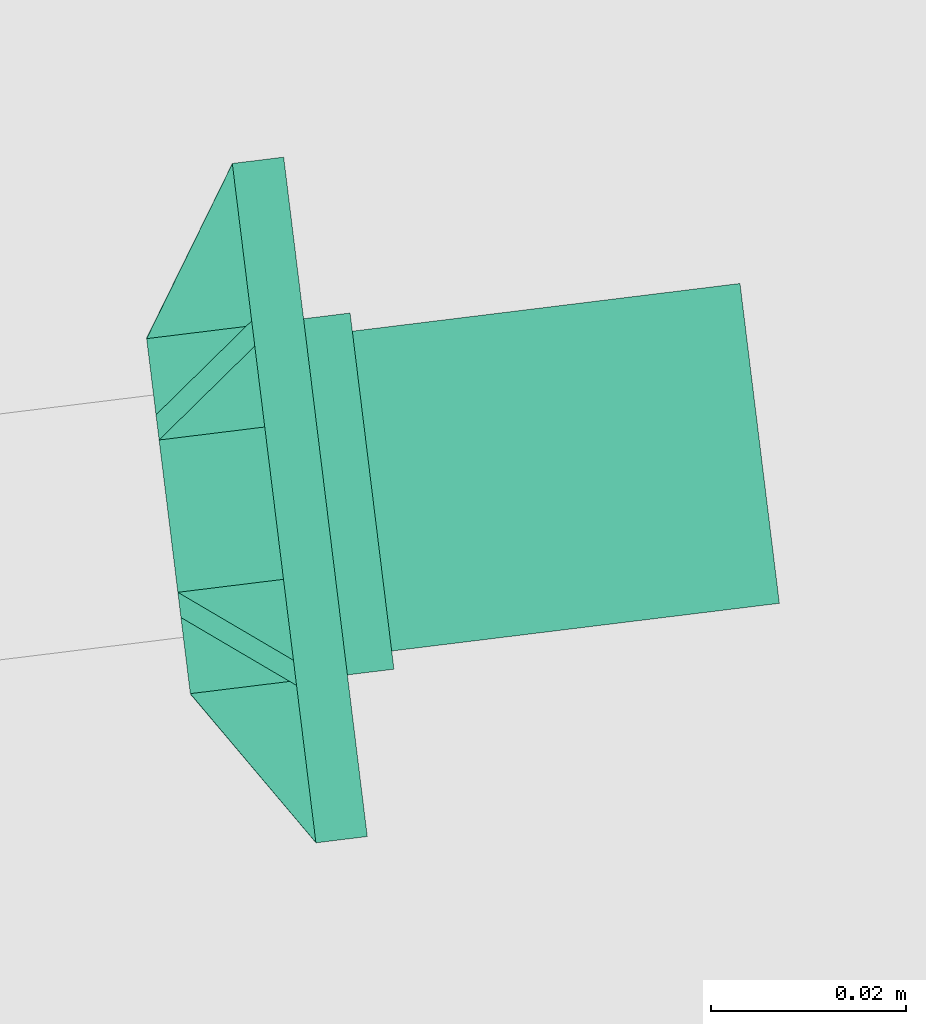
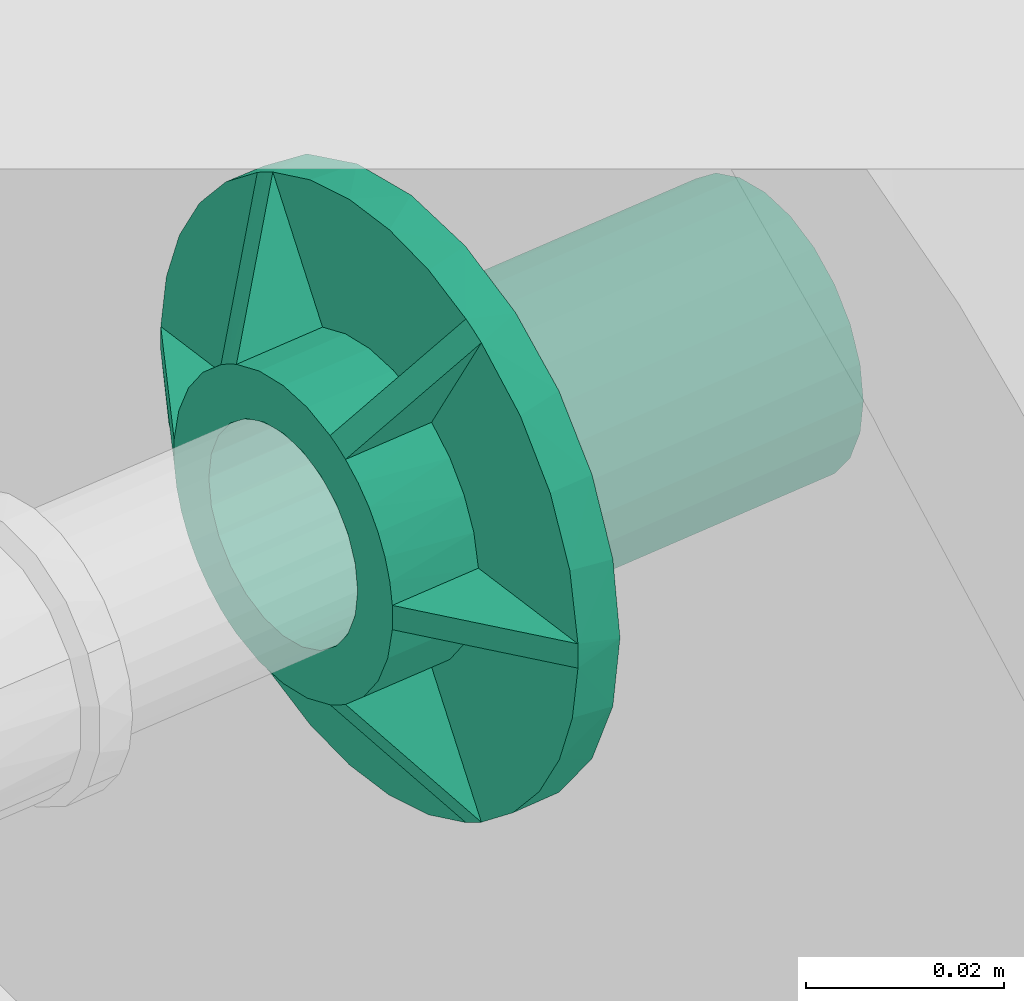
# One storey, part 94 of 97: 1 flow controller.
"""IFC2X3 building model written with IfcOpenShell, lengths in centimetres."""

from ifc_helpers import new_model, entity, si_unit, converted_unit, derived_unit, direction, frame, origin, place, context, subcontext, project, spatial, faceted_brep, source, transform, mapped, material, type_object, type_shapes, element, save


model = new_model("IFC2X3")

# Units and contexts
model_context = context("Model", 3, precision=0.001, world=origin(), true_north=direction((6.12303176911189e-17, 1.0)))
body_context = subcontext(model_context, "Body", "Model", "MODEL_VIEW")
ifc_project = project(units=[si_unit("LENGTHUNIT", "METRE", prefix="CENTI"), si_unit("AREAUNIT", "SQUARE_METRE"), si_unit("VOLUMEUNIT", "CUBIC_METRE"), converted_unit("PLANEANGLEUNIT", "DEGREE", entity("IfcRatioMeasure", 0.0174532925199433), si_unit("PLANEANGLEUNIT", "RADIAN"), dimensions=[0, 0, 0, 0, 0, 0, 0]), si_unit("MASSUNIT", "GRAM", prefix="KILO"), derived_unit("MASSDENSITYUNIT", [(si_unit("MASSUNIT", "GRAM", prefix="KILO"), 1), (si_unit("LENGTHUNIT", "METRE"), -3)]), derived_unit("MOMENTOFINERTIAUNIT", [(si_unit("LENGTHUNIT", "METRE"), 4)]), si_unit("TIMEUNIT", "SECOND"), si_unit("FREQUENCYUNIT", "HERTZ"), si_unit("THERMODYNAMICTEMPERATUREUNIT", "DEGREE_CELSIUS"), derived_unit("THERMALTRANSMITTANCEUNIT", [(si_unit("MASSUNIT", "GRAM", prefix="KILO"), 1), (si_unit("THERMODYNAMICTEMPERATUREUNIT", "KELVIN"), -1), (si_unit("TIMEUNIT", "SECOND"), -3)]), derived_unit("VOLUMETRICFLOWRATEUNIT", [(si_unit("LENGTHUNIT", "METRE"), 3), (si_unit("TIMEUNIT", "SECOND"), -1)]), si_unit("ELECTRICCURRENTUNIT", "AMPERE"), si_unit("ELECTRICVOLTAGEUNIT", "VOLT"), si_unit("POWERUNIT", "WATT"), si_unit("FORCEUNIT", "NEWTON", prefix="KILO"), si_unit("ILLUMINANCEUNIT", "LUX"), si_unit("LUMINOUSFLUXUNIT", "LUMEN"), si_unit("LUMINOUSINTENSITYUNIT", "CANDELA"), derived_unit("USERDEFINED", [(si_unit("MASSUNIT", "GRAM", prefix="KILO"), -1), (si_unit("LENGTHUNIT", "METRE"), -2), (si_unit("TIMEUNIT", "SECOND"), 3), (si_unit("LUMINOUSFLUXUNIT", "LUMEN"), 1)]), derived_unit("LINEARVELOCITYUNIT", [(si_unit("LENGTHUNIT", "METRE"), 1), (si_unit("TIMEUNIT", "SECOND"), -1)]), si_unit("PRESSUREUNIT", "PASCAL"), derived_unit("USERDEFINED", [(si_unit("LENGTHUNIT", "METRE"), -2), (si_unit("MASSUNIT", "GRAM", prefix="KILO"), 1), (si_unit("TIMEUNIT", "SECOND"), -2)]), derived_unit("LINEARFORCEUNIT", [(si_unit("MASSUNIT", "GRAM", prefix="KILO"), 1), (si_unit("LENGTHUNIT", "METRE"), 1), (si_unit("TIMEUNIT", "SECOND"), -2), (si_unit("LENGTHUNIT", "METRE"), -1)]), derived_unit("PLANARFORCEUNIT", [(si_unit("MASSUNIT", "GRAM", prefix="KILO"), 1), (si_unit("LENGTHUNIT", "METRE"), 1), (si_unit("TIMEUNIT", "SECOND"), -2), (si_unit("LENGTHUNIT", "METRE"), -2)])], contexts=[model_context])

# Site, building, storey
site_placement = place(None, origin())
site = spatial("IfcSite", under=ifc_project, at=site_placement, Name="Default", CompositionType="ELEMENT")
building_placement = place(site_placement, origin())
building = spatial("IfcBuilding", under=site, at=building_placement, Name="HIDROSSANITÁRIO", CompositionType="ELEMENT")
storey_placement = place(building_placement, frame((0.0, 0.0, -260.0)))
storey = spatial("IfcBuildingStorey", under=building, at=storey_placement, Name="TÉRREO-HID", CompositionType="ELEMENT", Elevation=-260.0)

# Flow controller
ifc_material = material(Name="PVC Marrom")
valve_type = type_object("IfcValveType", Name="Adaptador com Anel - Agua Fria_Soldavel - MEP - Tigre:Standard", PredefinedType="NOTDEFINED", material=ifc_material)
shared_shape = source(origin(), body_context, "Body", "Brep", [
    faceted_brep([(1.09000000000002, 0.996279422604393, 3.36042442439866), (1.09000000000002, 1.62099060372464, 3.10763808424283), (1.09000000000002, 0.785779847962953, 1.66101062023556), (1.09000000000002, 0.402678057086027, 1.79283480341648), (1.09000000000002, 0.0, 1.8375), (1.09000000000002, -0.402678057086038, 1.79283480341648), (1.09000000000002, -0.785779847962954, 1.66101062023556), (1.09000000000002, -1.62099060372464, 3.10763808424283), (1.09000000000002, -0.996309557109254, 3.36041549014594), (1.09000000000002, -0.33622900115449, 3.48883577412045), (1.09000000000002, 0.336209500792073, 3.4888376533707), (1.09000000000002, 1.83136731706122, 0.150000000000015), (1.09000000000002, 1.75397951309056, 0.547687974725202), (1.09000000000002, 1.5913216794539, 0.918750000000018), (1.09000000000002, 1.35130145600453, 1.24514682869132), (1.09000000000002, 1.04558746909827, 1.51101062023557), (1.09000000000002, 1.88079822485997, 2.95763808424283), (1.09000000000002, 2.41200058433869, 2.54308438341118), (1.09000000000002, 2.85349996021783, 2.03532871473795), (1.09000000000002, 3.18984592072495, 1.4525522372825), (1.09000000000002, 3.40862126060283, 0.8162880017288), (1.09000000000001, 3.50178882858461, 0.15000000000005), (1.09000000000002, -3.03582194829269, 1.75180195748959), (1.09000000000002, -2.53113860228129, 2.42453343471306), (1.09000000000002, -1.88079822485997, 2.95763808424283), (1.09000000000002, -1.04558746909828, 1.51101062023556), (1.09000000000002, -1.35130145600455, 1.24514682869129), (1.09000000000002, -1.59132167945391, 0.918749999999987), (1.09000000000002, -1.75397951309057, 0.547687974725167), (1.09000000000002, -1.83136731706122, 0.150000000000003), (1.09000000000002, -3.50178882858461, 0.150000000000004), (1.09000000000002, -3.36572579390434, 0.978220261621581), (1.09000000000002, 1.35130145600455, -1.2451468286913), (1.09000000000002, 1.59132167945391, -0.918749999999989), (1.09000000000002, 1.75397951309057, -0.547687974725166), (1.09000000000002, 1.83136731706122, -0.149999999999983), (1.09000000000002, 3.50178882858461, -0.149999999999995), (1.09000000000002, 3.36572579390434, -0.978220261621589), (1.09000000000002, 3.03582194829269, -1.7518019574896), (1.09000000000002, 2.53113860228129, -2.42453343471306), (1.09000000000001, 1.88079822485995, -2.95763808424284), (1.09000000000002, 1.04558746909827, -1.51101062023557), (1.09000000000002, -2.41200058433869, -2.54308438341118), (1.09000000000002, -2.85349996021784, -2.03532871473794), (1.09000000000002, -3.18984592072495, -1.45255223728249), (1.09000000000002, -3.40862126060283, -0.816288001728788), (1.09000000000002, -3.50178882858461, -0.149999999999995), (1.09000000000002, -1.83136731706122, -0.149999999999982), (1.09000000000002, -1.75397951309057, -0.547687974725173), (1.09000000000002, -1.59132167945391, -0.918749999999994), (1.09000000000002, -1.35130145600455, -1.2451468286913), (1.09000000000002, -1.04558746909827, -1.51101062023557), (1.09000000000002, -1.88079822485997, -2.95763808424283), (1.09000000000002, 0.336229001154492, -3.48883577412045), (1.09000000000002, -0.336209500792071, -3.4888376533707), (1.09000000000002, -0.996279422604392, -3.36042442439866), (1.09000000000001, -1.62099060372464, -3.10763808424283), (1.09000000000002, -0.785779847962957, -1.66101062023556), (1.09000000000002, -0.40267805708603, -1.79283480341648), (1.09000000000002, 0.0, -1.8375), (1.09000000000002, 0.40267805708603, -1.79283480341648), (1.09000000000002, 0.785779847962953, -1.66101062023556), (1.09000000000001, 1.62099060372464, -3.10763808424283), (1.09000000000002, 0.996309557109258, -3.36041549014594), (0.544790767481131, 2.66671457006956, 0.150000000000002), (0.545000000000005, 2.67125, 0.0), (0.0, 1.83596618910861, 0.0750626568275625), (0.0, 1.83136731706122, 0.150000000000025), (1.09000000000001, 3.50419711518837, 0.0750171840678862), (0.0, 1.83750000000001, 0.0), (1.09000000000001, 3.505, 0.0), (0.544790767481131, 1.20345347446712, -2.38444256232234), (0.544790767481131, 1.46326109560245, -2.23444256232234), (1.09000000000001, 1.75249999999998, -3.03541904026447), (0.0, 0.918750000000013, -1.59132167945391), (0.0, 1.04558746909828, -1.51101062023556), (0.0, 0.785779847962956, -1.66101062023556), (0.544790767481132, -2.66671457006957, -0.149999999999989), (0.545000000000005, -2.67125, 0.0), (0.0, -1.83596618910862, -0.0750626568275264), (0.0, -1.83136731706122, -0.149999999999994), (1.09000000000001, -3.50419711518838, -0.0750171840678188), (0.0, -1.83750000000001, 0.0), (1.09000000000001, -3.505, 0.0), (0.544790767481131, -1.46326109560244, -2.23444256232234), (0.544790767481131, -1.20345347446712, -2.38444256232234), (1.09000000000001, -1.75249999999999, -3.03541904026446), (0.0, -0.918750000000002, -1.59132167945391), (0.0, -0.785779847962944, -1.66101062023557), (0.0, -1.04558746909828, -1.51101062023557), (0.544790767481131, -1.20345347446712, 2.38444256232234), (0.544790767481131, -1.46326109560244, 2.23444256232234), (1.09000000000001, -1.75250000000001, 3.03541904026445), (0.0, -0.918750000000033, 1.59132167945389), (0.0, -1.04558746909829, 1.51101062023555), (0.0, -0.785779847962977, 1.66101062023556), (0.0, -1.35125325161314, -1.24519914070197), (0.0, -1.59129393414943, -0.918798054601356), (0.0, -1.75396970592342, -0.547719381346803), (0.0, 0.402586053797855, -1.79285546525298), (0.0, 6.33611868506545e-05, -1.83749999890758), (0.0, -0.402458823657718, -1.79288403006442), (0.544790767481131, 1.46326109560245, 2.23444256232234), (0.544790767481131, 1.20345347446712, 2.38444256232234), (1.09000000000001, 1.75249999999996, 3.03541904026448), (0.0, 0.918749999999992, 1.59132167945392), (0.0, 0.785779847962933, 1.66101062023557), (0.0, 1.04558746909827, 1.51101062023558), (0.0, -0.402586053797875, 1.79285546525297), (0.0, -6.33611868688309e-05, 1.83749999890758), (0.0, 0.402458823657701, 1.79288403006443), (2.1, -1.77488870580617, 0.475579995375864), (1.62, -1.77488870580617, 0.475579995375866), (1.62, -1.83750000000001, 0.0), (2.1, -1.83750000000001, 0.0), (2.1, -1.59132167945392, 0.918749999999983), (1.62, -1.59132167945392, 0.918749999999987), (1.62, -1.2993087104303, 1.29930871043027), (2.1, -1.2993087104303, 1.29930871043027), (2.1, -0.918750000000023, 1.5913216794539), (1.62, -0.918750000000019, 1.5913216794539), (2.1, -0.475579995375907, 1.77488870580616), (1.62, -0.475579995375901, 1.77488870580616), (2.1, 0.0, 1.8375), (1.62, 0.0, 1.8375), (2.1, 0.918749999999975, 1.59132167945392), (1.62, 0.918749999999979, 1.59132167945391), (1.62, 0.475579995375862, 1.77488870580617), (2.1, 0.475579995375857, 1.77488870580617), (2.1, 1.29930871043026, 1.2993087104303), (1.62, 1.29930871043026, 1.29930871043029), (1.62, 1.59132167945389, 0.918750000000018), (2.1, 1.59132167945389, 0.918750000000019), (2.1, 1.77488870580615, 0.475579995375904), (1.62, 1.77488870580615, 0.475579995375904), (2.1, 1.83749999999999, 0.0), (1.62, 1.83749999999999, 0.0), (0.0, 1.35125325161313, 1.24519914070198), (0.0, 1.59129393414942, 0.918798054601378), (0.0, 1.75396970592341, 0.54771938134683), (2.1, 1.77488870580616, -0.475579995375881), (1.62, 1.77488870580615, -0.475579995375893), (2.1, 1.5913216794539, -0.918749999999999), (1.62, 1.5913216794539, -0.918750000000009), (1.62, 1.29930871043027, -1.29930871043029), (2.1, 1.29930871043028, -1.29930871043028), (2.1, 0.918749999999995, -1.5913216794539), (1.62, 0.918749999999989, -1.59132167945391), (2.1, 0.475579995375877, -1.77488870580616), (1.62, 0.475579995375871, -1.77488870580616), (2.1, 0.0, -1.8375), (1.62, 0.0, -1.8375), (2.1, -0.918750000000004, -1.59132167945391), (1.62, -0.918750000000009, -1.5913216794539), (1.62, -0.475579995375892, -1.77488870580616), (2.1, -0.475579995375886, -1.77488870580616), (2.1, -1.29930871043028, -1.29930871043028), (1.62, -1.29930871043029, -1.29930871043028), (1.62, -1.59132167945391, -0.918749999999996), (2.1, -1.59132167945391, -0.918750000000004), (2.1, -1.77488870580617, -0.475579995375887), (1.62, -1.77488870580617, -0.475579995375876), (1.62, 1.7525, -3.03541904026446), (1.62, 2.47840926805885, -2.47840926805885), (1.62, 0.90716075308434, -3.38557002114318), (1.62, 0.0, -3.505), (1.62, -0.90716075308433, -3.38557002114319), (1.62, -1.75249999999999, -3.03541904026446), (1.62, -2.47840926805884, -2.47840926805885), (1.62, -3.03541904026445, -1.75250000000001), (1.62, -3.38557002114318, -0.907160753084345), (1.62, -3.505, 0.0), (1.62, -3.38557002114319, 0.907160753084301), (1.62, -3.03541904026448, 1.75249999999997), (1.62, -2.47840926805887, 2.47840926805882), (1.62, -1.75250000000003, 3.03541904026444), (1.62, -0.907160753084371, 3.38557002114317), (1.62, 0.0, 3.505), (1.62, 0.907160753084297, 3.38557002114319), (1.62, 1.75249999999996, 3.03541904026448), (1.62, 2.47840926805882, 2.47840926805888), (1.62, 3.03541904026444, 1.75250000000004), (1.62, 3.38557002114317, 0.907160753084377), (1.62, 3.505, 0.0), (1.62, 3.38557002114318, -0.907160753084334), (1.62, 3.03541904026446, -1.7525), (1.09000000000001, -3.50419711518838, 0.0750171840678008), (1.09000000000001, 3.50419711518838, -0.0750171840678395), (0.544790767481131, 2.66671457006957, -0.149999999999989), (0.0, 1.83596618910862, -0.075062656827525), (0.0, 1.83136731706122, -0.149999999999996), (0.544790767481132, -2.66671457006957, 0.150000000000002), (0.0, -1.83596618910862, 0.0750626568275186), (0.0, -1.83136731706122, 0.149999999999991), (0.0, 0.625000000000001, 1.08253175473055), (0.0, 0.323523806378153, 1.20740728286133), (0.0, 0.883883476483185, 0.883883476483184), (0.0, 0.0, 1.25), (0.0, -0.323523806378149, 1.20740728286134), (0.0, -0.624999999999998, 1.08253175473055), (0.0, -0.883883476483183, 0.883883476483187), (0.0, -1.25590084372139, 1.34131253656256), (0.0, -1.43906388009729, 1.14258540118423), (0.0, -1.08253175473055, 0.625000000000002), (0.0, -1.5910921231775, 0.919147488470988), (0.0, -1.70870547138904, 0.675819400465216), (0.0, -1.20740728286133, 0.323523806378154), (0.0, -1.7893620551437, 0.4178393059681), (0.0, -1.25, 0.0), (0.0, -1.20740728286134, -0.323523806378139), (0.0, -1.08253175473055, -0.624999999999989), (0.0, -0.883883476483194, -0.883883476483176), (0.0, -0.625000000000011, -1.08253175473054), (0.0, -0.323523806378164, -1.20740728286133), (0.0, 0.0, -1.25), (0.0, 0.323523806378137, -1.20740728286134), (0.0, 0.624999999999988, -1.08253175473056), (0.0, 0.883883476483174, -0.883883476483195), (0.0, 1.25590084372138, -1.34131253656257), (0.0, 1.43906388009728, -1.14258540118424), (0.0, 1.08253175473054, -0.625000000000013), (0.0, 1.59109212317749, -0.919147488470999), (0.0, 1.70870547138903, -0.675819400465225), (0.0, 1.20740728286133, -0.323523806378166), (0.0, 1.7893620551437, -0.417839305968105), (0.0, 1.25, 0.0), (0.0, 1.20740728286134, 0.323523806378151), (0.0, 1.08253175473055, 0.625), (6.1, 0.825000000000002, -1.42894191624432), (6.1, 1.1667261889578, -1.1667261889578), (6.1, 0.624999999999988, -1.08253175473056), (6.1, 0.323523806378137, -1.20740728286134), (6.1, 0.427051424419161, -1.59377761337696), (6.1, 0.883883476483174, -0.883883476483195), (6.1, 1.42894191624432, -0.824999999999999), (6.1, 1.08253175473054, -0.625000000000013), (6.1, 1.20740728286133, -0.323523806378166), (6.1, 1.59377761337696, -0.427051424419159), (6.1, 1.25, 0.0), (6.1, 1.65, 0.0), (6.1, 1.20740728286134, 0.323523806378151), (6.1, 1.59377761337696, 0.427051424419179), (6.1, 1.08253175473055, 0.624999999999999), (6.1, 1.42894191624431, 0.825000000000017), (6.1, 0.883883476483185, 0.883883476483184), (6.1, 1.16672618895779, 1.16672618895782), (6.1, 0.625000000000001, 1.08253175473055), (6.1, 0.824999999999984, 1.42894191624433), (6.1, 0.323523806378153, 1.20740728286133), (6.1, 0.427051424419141, 1.59377761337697), (6.1, 0.0, 1.25), (6.1, 0.0, 1.65), (6.1, -0.323523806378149, 1.20740728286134), (6.1, -0.427051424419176, 1.59377761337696), (6.1, -0.624999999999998, 1.08253175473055), (6.1, -0.825000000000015, 1.42894191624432), (6.1, -0.883883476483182, 0.883883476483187), (6.1, -1.16672618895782, 1.16672618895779), (6.1, -1.08253175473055, 0.625000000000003), (6.1, -1.42894191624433, 0.824999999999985), (6.1, -1.59377761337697, 0.427051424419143), (6.1, -1.20740728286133, 0.323523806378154), (6.1, -1.65, 0.0), (6.1, -1.25, 0.0), (6.1, -1.59377761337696, -0.427051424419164), (6.1, -1.20740728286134, -0.323523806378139), (6.1, -1.42894191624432, -0.825000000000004), (6.1, -1.08253175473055, -0.624999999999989), (6.1, -1.1667261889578, -1.16672618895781), (6.1, -0.883883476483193, -0.883883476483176), (6.1, -0.824999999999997, -1.42894191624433), (6.1, -0.625000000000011, -1.08253175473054), (6.1, -0.427051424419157, -1.59377761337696), (6.1, -0.323523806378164, -1.20740728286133), (6.1, 0.0, -1.65), (6.1, 0.0, -1.25), (2.1, -1.59377761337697, 0.427051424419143), (2.1, -1.65, 0.0), (2.1, -1.42894191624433, 0.824999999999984), (2.1, -0.825000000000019, 1.42894191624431), (2.1, -1.16672618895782, 1.16672618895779), (2.1, -0.427051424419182, 1.59377761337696), (2.1, 0.0, 1.65), (2.1, 0.824999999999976, 1.42894191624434), (2.1, 0.427051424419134, 1.59377761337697), (2.10000000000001, 1.16672618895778, 1.16672618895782), (2.10000000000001, 1.59377761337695, 0.427051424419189), (2.10000000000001, 1.42894191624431, 0.825000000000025), (2.10000000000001, 1.65, 0.0), (2.10000000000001, 1.59377761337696, -0.427051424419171), (2.10000000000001, 1.42894191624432, -0.825000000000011), (2.1, 0.427051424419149, -1.59377761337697), (2.1, 0.82499999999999, -1.42894191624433), (2.10000000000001, 1.1667261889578, -1.16672618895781), (2.1, 0.0, -1.65), (2.1, -0.825000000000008, -1.42894191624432), (2.1, -0.427051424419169, -1.59377761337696), (2.1, -1.16672618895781, -1.1667261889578), (2.1, -1.59377761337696, -0.427051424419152), (2.1, -1.42894191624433, -0.824999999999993), (1.09000000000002, -1.25, 0.0), (1.62, -1.25, 0.0), (2.1, -1.25, 0.0), (1.62, -1.20740728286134, -0.323523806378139), (1.09000000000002, -1.20740728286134, -0.323523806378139), (1.62, -1.08253175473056, -0.624999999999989), (1.09000000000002, -1.08253175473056, -0.624999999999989), (1.09000000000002, -0.625000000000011, -1.08253175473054), (1.09000000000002, -0.883883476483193, -0.883883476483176), (1.62, -0.883883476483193, -0.883883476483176), (1.62, -0.625000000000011, -1.08253175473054), (1.09000000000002, -0.323523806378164, -1.20740728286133), (1.62, -0.323523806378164, -1.20740728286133), (1.62, 0.0, -1.25), (1.09000000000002, 0.0, -1.25), (1.62, 0.323523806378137, -1.20740728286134), (1.09000000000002, 0.323523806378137, -1.20740728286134), (1.62, 0.624999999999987, -1.08253175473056), (1.09000000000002, 0.624999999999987, -1.08253175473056), (1.09000000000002, 1.08253175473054, -0.625000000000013), (1.09000000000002, 0.883883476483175, -0.883883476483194), (1.62, 0.883883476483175, -0.883883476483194), (1.62, 1.08253175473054, -0.625000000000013), (1.09000000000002, 1.20740728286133, -0.323523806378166), (1.62, 1.20740728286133, -0.323523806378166), (2.10000000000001, 1.25, 0.0), (1.62, 1.25, 0.0), (1.09000000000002, 1.25, 0.0), (1.62, 1.20740728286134, 0.323523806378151), (1.09000000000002, 1.20740728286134, 0.323523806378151), (1.62, 1.08253175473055, 0.624999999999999), (1.09000000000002, 1.08253175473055, 0.624999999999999), (1.09000000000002, 0.625000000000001, 1.08253175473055), (1.09000000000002, 0.883883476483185, 0.883883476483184), (1.62, 0.883883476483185, 0.883883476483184), (1.62, 0.625000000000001, 1.08253175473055), (1.09000000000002, 0.323523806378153, 1.20740728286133), (1.62, 0.323523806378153, 1.20740728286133), (1.62, 0.0, 1.25), (1.09000000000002, 0.0, 1.25), (1.62, -0.323523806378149, 1.20740728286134), (1.09000000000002, -0.323523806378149, 1.20740728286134), (1.62, -0.624999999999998, 1.08253175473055), (1.09000000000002, -0.624999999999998, 1.08253175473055), (1.09000000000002, -1.08253175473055, 0.625000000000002), (1.09000000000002, -0.883883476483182, 0.883883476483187), (1.62, -0.883883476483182, 0.883883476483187), (1.62, -1.08253175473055, 0.625000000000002), (1.09000000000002, -1.20740728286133, 0.323523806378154), (1.62, -1.20740728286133, 0.323523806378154)], [[[0, 1, 2, 3, 4, 5, 6, 7, 8, 9, 10]], [[11, 12, 13, 14, 15, 16, 17, 18, 19, 20, 21]], [[22, 23, 24, 25, 26, 27, 28, 29, 30, 31]], [[32, 33, 34, 35, 36, 37, 38, 39, 40, 41]], [[42, 43, 44, 45, 46, 47, 48, 49, 50, 51, 52]], [[53, 54, 55, 56, 57, 58, 59, 60, 61, 62, 63]], [[64, 65, 66]], [[66, 67, 64]], [[68, 64, 21]], [[66, 65, 69]], [[64, 68, 65]], [[65, 68, 70]], [[71, 72, 73]], [[72, 40, 73]], [[74, 75, 72]], [[71, 76, 74]], [[71, 73, 62]], [[74, 72, 71]], [[77, 78, 79]], [[79, 80, 77]], [[81, 77, 46]], [[79, 78, 82]], [[77, 81, 78]], [[78, 81, 83]], [[84, 85, 86]], [[85, 56, 86]], [[87, 88, 85]], [[84, 89, 87]], [[84, 86, 52]], [[87, 85, 84]], [[90, 91, 92]], [[91, 24, 92]], [[93, 94, 91]], [[90, 95, 93]], [[90, 92, 7]], [[93, 91, 90]], [[51, 50, 96]], [[51, 96, 89]], [[96, 50, 97]], [[50, 49, 97]], [[49, 48, 98]], [[48, 80, 98]], [[80, 48, 47]], [[49, 98, 97]], [[61, 60, 76]], [[60, 99, 76]], [[100, 99, 59]], [[99, 60, 59]], [[59, 58, 101]], [[58, 88, 101]], [[88, 58, 57]], [[59, 101, 100]], [[102, 103, 104]], [[103, 1, 104]], [[105, 106, 103]], [[102, 107, 105]], [[102, 104, 16]], [[105, 103, 102]], [[6, 5, 95]], [[5, 108, 95]], [[109, 108, 4]], [[108, 5, 4]], [[4, 3, 110]], [[3, 106, 110]], [[106, 3, 2]], [[4, 110, 109]], [[111, 112, 113, 114]], [[115, 116, 112, 111]], [[117, 118, 119, 120]], [[115, 118, 117, 116]], [[120, 119, 121, 122]], [[123, 124, 122, 121]], [[125, 126, 127, 128]], [[129, 130, 126, 125]], [[131, 132, 133, 134]], [[129, 132, 131, 130]], [[134, 133, 135, 136]], [[127, 124, 123, 128]], [[15, 14, 137]], [[15, 137, 107]], [[137, 14, 138]], [[14, 13, 138]], [[13, 12, 139]], [[12, 67, 139]], [[67, 12, 11]], [[13, 139, 138]], [[140, 141, 136, 135]], [[142, 143, 141, 140]], [[144, 145, 146, 147]], [[142, 145, 144, 143]], [[147, 146, 148, 149]], [[150, 151, 149, 148]], [[152, 153, 154, 155]], [[156, 157, 153, 152]], [[158, 159, 160, 161]], [[156, 159, 158, 157]], [[161, 160, 114, 113]], [[154, 151, 150, 155]], [[147, 149, 162]], [[163, 147, 162]], [[147, 163, 144]], [[149, 164, 162]], [[164, 149, 151]], [[164, 151, 165]], [[154, 165, 151]], [[165, 154, 166]], [[154, 153, 166]], [[167, 166, 153]], [[157, 167, 153]], [[167, 157, 168]], [[158, 168, 157]], [[169, 168, 158]], [[161, 169, 158]], [[170, 169, 161]], [[170, 161, 113]], [[170, 113, 171]], [[171, 113, 112]], [[171, 112, 172]], [[172, 112, 116]], [[172, 116, 173]], [[174, 173, 116]], [[174, 116, 117]], [[117, 175, 174]], [[117, 120, 175]], [[176, 175, 120]], [[122, 176, 120]], [[122, 177, 176]], [[177, 122, 124]], [[124, 178, 177]], [[127, 178, 124]], [[178, 127, 179]], [[126, 179, 127]], [[180, 179, 126]], [[180, 126, 130]], [[180, 130, 181]], [[181, 130, 131]], [[181, 131, 182]], [[134, 182, 131]], [[183, 182, 134]], [[134, 136, 183]], [[136, 184, 183]], [[184, 136, 141]], [[184, 141, 185]], [[141, 143, 185]], [[144, 185, 143]], [[163, 185, 144]], [[172, 30, 171]], [[31, 172, 173]], [[173, 174, 23]], [[7, 175, 176]], [[176, 9, 8]], [[9, 176, 177]], [[9, 177, 10]], [[174, 175, 24]], [[8, 7, 176]], [[31, 30, 172]], [[83, 171, 186]], [[186, 171, 30]], [[92, 24, 175]], [[23, 22, 173]], [[174, 24, 23]], [[22, 31, 173]], [[92, 175, 7]], [[179, 1, 178]], [[16, 179, 180]], [[180, 181, 18]], [[182, 183, 21]], [[183, 68, 21]], [[68, 183, 70]], [[181, 182, 19]], [[20, 182, 21]], [[104, 1, 179]], [[1, 0, 178]], [[0, 10, 178]], [[19, 18, 181]], [[17, 16, 180]], [[180, 18, 17]], [[16, 104, 179]], [[182, 20, 19]], [[178, 10, 177]], [[184, 36, 183]], [[37, 184, 185]], [[185, 163, 39]], [[62, 162, 164]], [[164, 53, 63]], [[53, 164, 165]], [[53, 165, 54]], [[163, 162, 40]], [[63, 62, 164]], [[37, 36, 184]], [[36, 187, 183]], [[187, 70, 183]], [[73, 40, 162]], [[39, 38, 185]], [[163, 40, 39]], [[38, 37, 185]], [[162, 62, 73]], [[167, 56, 166]], [[52, 167, 168]], [[168, 169, 43]], [[170, 171, 46]], [[171, 81, 46]], [[81, 171, 83]], [[169, 170, 44]], [[45, 170, 46]], [[86, 56, 167]], [[56, 55, 166]], [[55, 54, 166]], [[44, 43, 169]], [[42, 52, 168]], [[168, 43, 42]], [[52, 86, 167]], [[170, 45, 44]], [[166, 54, 165]], [[65, 188, 189]], [[70, 187, 65]], [[188, 190, 189]], [[65, 189, 69]], [[188, 187, 36]], [[188, 65, 187]], [[78, 191, 192]], [[78, 192, 82]], [[191, 193, 192]], [[83, 186, 78]], [[191, 186, 30]], [[191, 78, 186]], [[194, 195, 106]], [[105, 194, 106]], [[107, 194, 105]], [[194, 107, 196]], [[110, 106, 195]], [[195, 197, 110]], [[109, 110, 197]], [[109, 197, 108]], [[108, 197, 198]], [[95, 108, 198]], [[198, 199, 95]], [[95, 199, 93]], [[93, 199, 94]], [[200, 94, 199]], [[201, 94, 200]], [[201, 200, 202]], [[203, 202, 200]], [[203, 204, 202]], [[204, 203, 205]], [[203, 206, 205]], [[206, 207, 205]], [[193, 207, 206]], [[206, 208, 193]], [[208, 192, 193]], [[208, 82, 192]], [[208, 79, 82]], [[208, 80, 79]], [[209, 80, 208]], [[209, 98, 80]], [[98, 209, 210]], [[98, 210, 97]], [[210, 96, 97]], [[96, 210, 211]], [[211, 89, 96]], [[89, 211, 212]], [[212, 87, 89]], [[87, 212, 88]], [[212, 213, 88]], [[213, 101, 88]], [[213, 214, 101]], [[100, 101, 214]], [[214, 99, 100]], [[215, 99, 214]], [[76, 99, 215]], [[215, 216, 76]], [[76, 216, 74]], [[216, 75, 74]], [[217, 75, 216]], [[218, 75, 217]], [[219, 218, 217]], [[220, 219, 217]], [[219, 220, 221]], [[221, 220, 222]], [[220, 223, 222]], [[223, 224, 222]], [[223, 190, 224]], [[225, 190, 223]], [[189, 190, 225]], [[225, 69, 189]], [[66, 69, 225]], [[66, 225, 67]], [[225, 226, 67]], [[139, 67, 226]], [[226, 227, 139]], [[227, 138, 139]], [[137, 227, 196]], [[137, 138, 227]], [[107, 137, 196]], [[2, 1, 103, 106]], [[52, 51, 89, 84]], [[16, 15, 107, 102]], [[57, 56, 85, 88]], [[25, 24, 91, 94]], [[62, 61, 76, 71]], [[7, 6, 95, 90]], [[41, 40, 72, 75]], [[11, 21, 64, 67]], [[30, 29, 193, 191]], [[36, 35, 190, 188]], [[47, 46, 77, 80]], [[228, 229, 230]], [[228, 230, 231]], [[231, 232, 228]], [[230, 229, 233]], [[234, 233, 229]], [[235, 233, 234]], [[236, 235, 234]], [[236, 234, 237]], [[236, 237, 238]], [[238, 237, 239]], [[240, 238, 239]], [[240, 239, 241]], [[242, 240, 241]], [[242, 241, 243]], [[244, 242, 243]], [[243, 245, 244]], [[245, 246, 244]], [[246, 245, 247]], [[246, 247, 248]], [[249, 248, 247]], [[248, 249, 250]], [[250, 249, 251]], [[251, 252, 250]], [[252, 251, 253]], [[252, 253, 254]], [[255, 254, 253]], [[255, 256, 254]], [[255, 257, 256]], [[258, 256, 257]], [[259, 258, 257]], [[260, 258, 259]], [[261, 258, 260]], [[261, 260, 262]], [[262, 263, 261]], [[264, 263, 262]], [[264, 265, 263]], [[265, 264, 266]], [[267, 265, 266]], [[267, 266, 268]], [[267, 268, 269]], [[268, 270, 269]], [[269, 270, 271]], [[271, 270, 272]], [[272, 273, 271]], [[274, 273, 272]], [[232, 275, 274]], [[273, 274, 275]], [[232, 231, 275]], [[276, 277, 262, 260]], [[259, 278, 276, 260]], [[279, 280, 257, 255]], [[259, 257, 280, 278]], [[281, 279, 255, 253]], [[253, 251, 282, 281]], [[283, 284, 249, 247]], [[245, 285, 283, 247]], [[286, 287, 243, 241]], [[245, 243, 287, 285]], [[288, 286, 241, 239]], [[249, 284, 282, 251]], [[237, 289, 288, 239]], [[234, 290, 289, 237]], [[228, 232, 291, 292]], [[229, 228, 292, 293]], [[229, 293, 290, 234]], [[232, 274, 294, 291]], [[295, 296, 272, 270]], [[268, 297, 295, 270]], [[298, 299, 266, 264]], [[268, 266, 299, 297]], [[277, 298, 264, 262]], [[272, 296, 294, 274]], [[300, 301, 302, 303, 304, 209, 208]], [[302, 263, 265]], [[304, 303, 305, 306, 210, 209]], [[307, 212, 211, 308, 309, 269, 271, 310]], [[309, 308, 211, 210, 306, 305]], [[311, 213, 212, 307, 310, 271, 273, 312]], [[311, 312, 273, 275, 313, 314, 214, 213]], [[314, 313, 275, 231, 315, 316, 215, 214]], [[316, 315, 231, 230, 317, 318, 216, 215]], [[319, 220, 217, 320, 321, 322]], [[321, 320, 217, 216, 318, 317, 230, 233]], [[323, 223, 220, 319, 322, 324]], [[323, 324, 325, 326, 327, 225, 223]], [[236, 238, 325]], [[327, 326, 325, 328, 329, 226, 225]], [[325, 238, 240]], [[329, 328, 330, 331, 227, 226]], [[332, 194, 196, 333, 334, 244, 246, 335]], [[334, 333, 196, 227, 331, 330]], [[336, 195, 194, 332, 335, 246, 248, 337]], [[336, 337, 248, 250, 338, 339, 197, 195]], [[339, 338, 250, 252, 340, 341, 198, 197]], [[341, 340, 252, 254, 342, 343, 199, 198]], [[344, 203, 200, 345, 346, 347]], [[346, 345, 200, 199, 343, 342, 254, 256]], [[348, 206, 203, 344, 347, 349]], [[348, 349, 302, 301, 300, 208, 206]], [[261, 263, 302]], [[305, 303, 302]], [[302, 269, 309]], [[305, 302, 309]], [[265, 267, 302]], [[302, 267, 269]], [[322, 321, 325]], [[325, 324, 322]], [[325, 235, 236]], [[233, 235, 325]], [[321, 233, 325]], [[330, 328, 325]], [[325, 244, 334]], [[330, 325, 334]], [[240, 242, 325]], [[325, 242, 244]], [[347, 346, 302]], [[302, 349, 347]], [[302, 258, 261]], [[256, 258, 302]], [[346, 256, 302]], [[146, 145, 292]], [[146, 292, 291]], [[291, 148, 146]], [[292, 145, 293]], [[142, 293, 145]], [[293, 142, 290]], [[290, 142, 289]], [[140, 289, 142]], [[140, 288, 289]], [[288, 140, 135]], [[286, 288, 135]], [[135, 133, 286]], [[286, 133, 287]], [[132, 287, 133]], [[287, 132, 285]], [[285, 132, 129]], [[283, 285, 129]], [[129, 125, 283]], [[283, 125, 284]], [[128, 284, 125]], [[284, 128, 282]], [[282, 128, 123]], [[282, 123, 281]], [[281, 123, 121]], [[281, 121, 279]], [[119, 279, 121]], [[119, 280, 279]], [[280, 119, 118]], [[118, 278, 280]], [[115, 278, 118]], [[278, 115, 111]], [[111, 276, 278]], [[114, 276, 111]], [[114, 277, 276]], [[160, 277, 114]], [[160, 298, 277]], [[298, 160, 159]], [[159, 299, 298]], [[299, 159, 156]], [[299, 156, 297]], [[156, 152, 297]], [[297, 152, 295]], [[295, 152, 155]], [[155, 296, 295]], [[150, 296, 155]], [[148, 294, 150]], [[150, 294, 296]], [[148, 291, 294]], [[207, 29, 28]], [[205, 28, 27]], [[29, 207, 193]], [[207, 28, 205]], [[27, 204, 205]], [[201, 26, 25]], [[201, 25, 94]], [[202, 204, 27]], [[202, 26, 201]], [[202, 27, 26]], [[224, 35, 34]], [[222, 34, 33]], [[35, 224, 190]], [[224, 34, 222]], [[33, 221, 222]], [[218, 32, 41]], [[218, 41, 75]], [[219, 221, 33]], [[219, 32, 218]], [[219, 33, 32]]]),
])
type_shapes(valve_type, [shared_shape])
flow_controller_placement = place(storey_placement, frame((-1713.73144096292, 3032.29189158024, 325.5), z_axis=(0.0, 0.0, 1.0), x_axis=(0.992511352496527, 0.122152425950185, 0.0)))
element("IfcFlowController", 1, at=flow_controller_placement, inside=storey, type_object=valve_type, material=ifc_material, Name="Adaptador com Anel - Agua Fria_Soldavel - MEP - Tigre:Standard", ObjectType="Adaptador com Anel - Agua Fria_Soldavel - MEP - Tigre:Standard", context=body_context, shape_type="MappedRepresentation", body=[
    mapped(shared_shape, transform((0.0, 0.0, 0.0), scale=1.0)),
])

save(model, "model.ifc")
